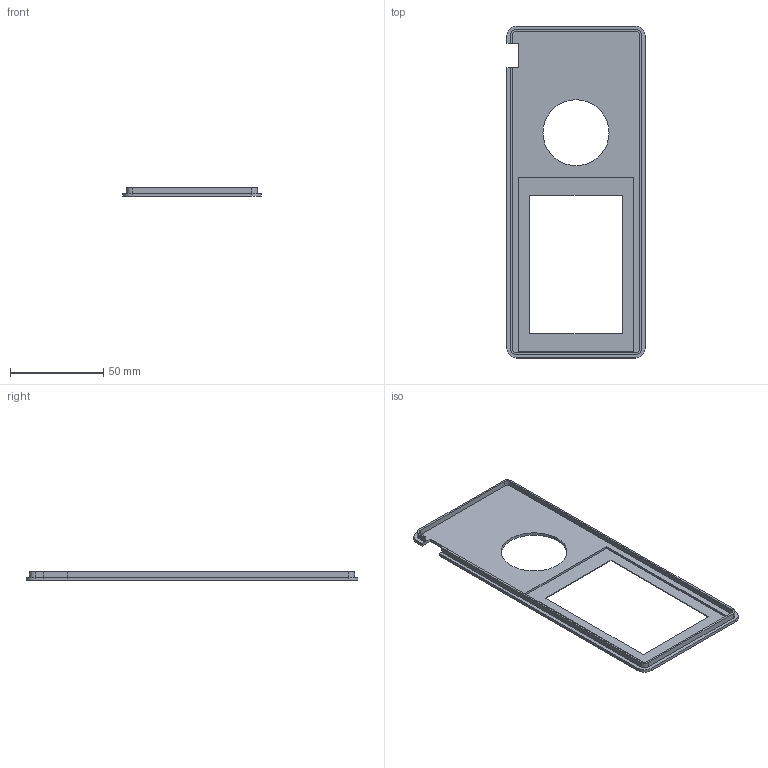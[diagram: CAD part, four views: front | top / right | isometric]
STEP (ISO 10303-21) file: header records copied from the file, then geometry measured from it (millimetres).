
FILE_DESCRIPTION(('Open CASCADE Model'),'2;1');
FILE_NAME('Open CASCADE Shape Model','2026-09-22T07:23:23',('Author'),( 'Open CASCADE'),'Open CASCADE STEP processor 7.9','Open CASCADE 7.9' ,'Unknown');
FILE_SCHEMA(('AUTOMOTIVE_DESIGN { 1 0 10303 214 1 1 1 1 }'));
Length unit declared in the file: millimetre
Products named in the file (1): Open CASCADE STEP translator 7.9 2
Bounding box: 74 x 178 x 4.6 mm (x, y, z)
Volume: 12350.1 mm3; surface area: 21061.3 mm2
Topology: 1 solids, 1 shells, 44 faces, 123 edges, 82 vertices
Faces by surface type: plane 31, cylinder 13
Full cylindrical faces by diameter (mm): 35.4 x1
Entity records: 3060 total; most frequent: CARTESIAN_POINT 556, DIRECTION 475, LINE 317, VECTOR 317, ORIENTED_EDGE 246, PCURVE 246, DEFINITIONAL_REPRESENTATION 246, EDGE_CURVE 123
